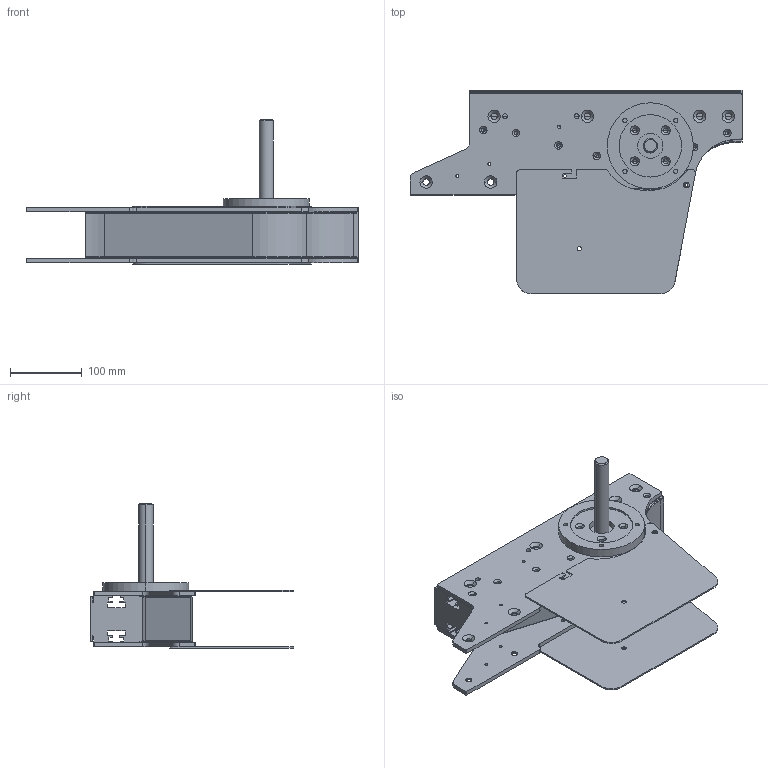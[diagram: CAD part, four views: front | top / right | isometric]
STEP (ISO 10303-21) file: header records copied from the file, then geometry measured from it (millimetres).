
FILE_DESCRIPTION (( 'STEP AP214' ), '1' );
FILE_NAME ('FSID DD 0R.step', '2017-04-07T11:09:35', ( '' ), ( '' ), 'SwSTEP 2.0', 'SolidWorks 2016', '' );
FILE_SCHEMA (( 'AUTOMOTIVE_DESIGN' ));
Length unit declared in the file: millimetre
Products named in the file (1): FSID DD 0R
Bounding box: 462.8 x 283.51 x 201.4 mm (x, y, z)
Volume: 3251815.5 mm3; surface area: 625203.6 mm2
Topology: 7 solids, 7 shells, 538 faces, 1415 edges, 866 vertices
Faces by surface type: cylinder 272, cone 136, plane 118, torus 12
Entity records: 17003 total; most frequent: DIRECTION 3089, CARTESIAN_POINT 2768, ORIENTED_EDGE 2726, EDGE_CURVE 1363, AXIS2_PLACEMENT_3D 1187, VERTEX_POINT 866, VECTOR 715, LINE 715
